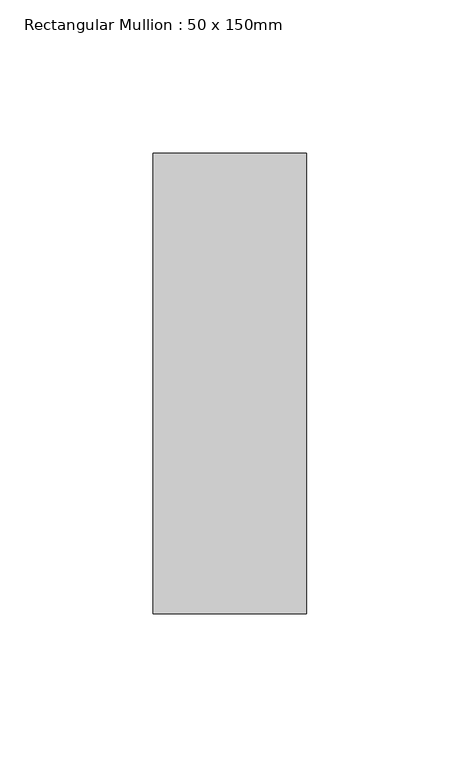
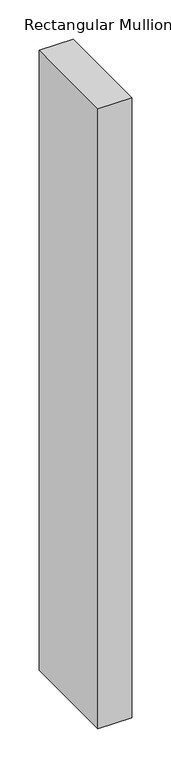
"""IFC4 building model written with IfcOpenShell, lengths in millimetres: member geometry, Rectangular Mullion : 50 x 150mm."""

from ifc_helpers import new_model, si_unit, frame, origin, place, context, project, spatial, polyline, outline, extrude, source, transform, mapped, element, save


def rectangular_mullion_50_x_150mm_d24e7f91(model_context):
    return source(origin(), model_context, "Body", "SweptSolid", [
        extrude(outline(polyline([(25.0, 75.0), (25.0, -75.0), (-25.0, -75.0), (-25.0, 75.0), (25.0, 75.0)])), frame((0.0, 0.0, -966.6666665), z_axis=(0.0, 0.0, 1.0), x_axis=(1.0, 0.0, 0.0)), (0.0, 0.0, 1.0), 966.6666665),
    ])


if __name__ == "__main__":
    model = new_model("IFC4")
    model_context = context("Model", 3, world=origin())
    ifc_project = project(units=[si_unit("LENGTHUNIT", "METRE", prefix="MILLI")], contexts=[model_context])
    site = spatial("IfcSite", under=ifc_project)
    building = spatial("IfcBuilding", under=site)
    placement = place(None, origin())
    rectangular_mullion_50_x_150mm_shape = rectangular_mullion_50_x_150mm_d24e7f91(model_context)
    element("IfcMember", 1, ObjectType="Rectangular Mullion : 50 x 150mm", at=placement, inside=building, context=model_context, shape_type="MappedRepresentation", body=[
        mapped(rectangular_mullion_50_x_150mm_shape, transform((0.0, 0.0, 0.0), x_axis=(1.0, 0.0, 0.0), y_axis=(0.0, 1.0, 0.0), z_axis=(0.0, 0.0, 1.0))),
    ])
    save(model, "model.ifc")
